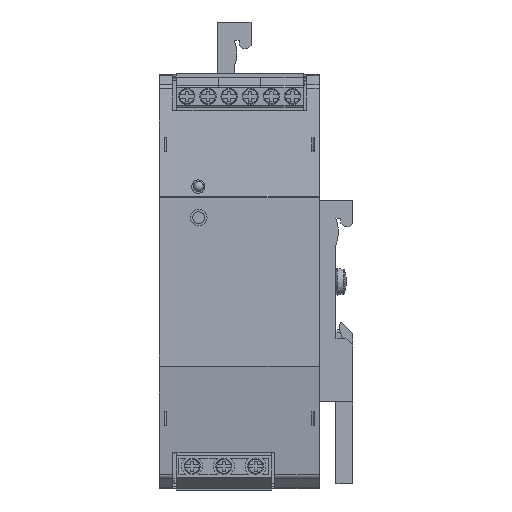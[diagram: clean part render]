
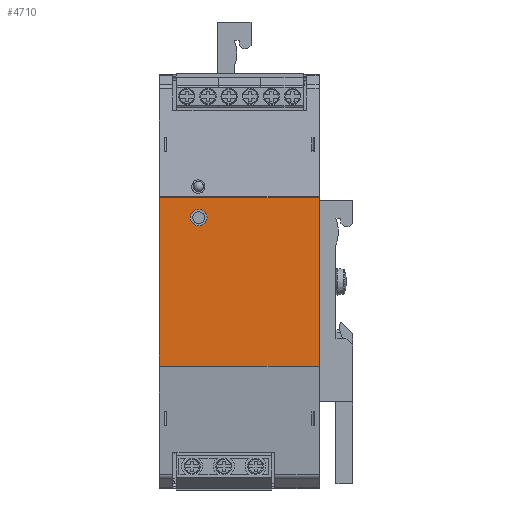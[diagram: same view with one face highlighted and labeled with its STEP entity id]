
A CAD part, front view. The second image highlights one B-rep face of the part: STEP entity #4710.
In plain terms, the highlighted planar face has unit normal (0, -1, 0).
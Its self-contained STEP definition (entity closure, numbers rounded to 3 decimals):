
#4710 = ADVANCED_FACE( '', ( #11376, #11377 ), #11378, .T. );
#11376 = FACE_OUTER_BOUND( '', #22682, .T. );
#11377 = FACE_BOUND( '', #22683, .T. );
#11378 = PLANE( '', #22684 );
#22682 = EDGE_LOOP( '', ( #41666, #41667, #41668, #41669 ) );
#22683 = EDGE_LOOP( '', ( #41670 ) );
#22684 = AXIS2_PLACEMENT_3D( '', #41671, #41672, #41673 );
#41666 = ORIENTED_EDGE( '', *, *, #62939, .F. );
#41667 = ORIENTED_EDGE( '', *, *, #62940, .F. );
#41668 = ORIENTED_EDGE( '', *, *, #62941, .T. );
#41669 = ORIENTED_EDGE( '', *, *, #62942, .T. );
#41670 = ORIENTED_EDGE( '', *, *, #62943, .F. );
#41671 = CARTESIAN_POINT( '', ( -22.5, -55.11, -25.39 ) );
#41672 = DIRECTION( '', ( 0., -1., 0. ) );
#41673 = DIRECTION( '', ( -1., 0., 0. ) );
#62939 = EDGE_CURVE( '', #77693, #77694, #77695, .T. );
#62940 = EDGE_CURVE( '', #77696, #77693, #77697, .T. );
#62941 = EDGE_CURVE( '', #77696, #77698, #77699, .T. );
#62942 = EDGE_CURVE( '', #77698, #77694, #77700, .T. );
#62943 = EDGE_CURVE( '', #77701, #77701, #77702, .T. );
#77693 = VERTEX_POINT( '', #98783 );
#77694 = VERTEX_POINT( '', #98784 );
#77695 = LINE( '', #98785, #98786 );
#77696 = VERTEX_POINT( '', #98787 );
#77697 = LINE( '', #98788, #98789 );
#77698 = VERTEX_POINT( '', #98790 );
#77699 = LINE( '', #98791, #98792 );
#77700 = LINE( '', #98793, #98794 );
#77701 = VERTEX_POINT( '', #98795 );
#77702 = CIRCLE( '', #98796, 2.5 );
#98783 = CARTESIAN_POINT( '', ( 25.5, -55.11, 25.322 ) );
#98784 = CARTESIAN_POINT( '', ( 25.5, -55.11, -25.322 ) );
#98785 = CARTESIAN_POINT( '', ( 25.5, -55.11, -25.39 ) );
#98786 = VECTOR( '', #112809, 1000. );
#98787 = CARTESIAN_POINT( '', ( -22.5, -55.11, 25.322 ) );
#98788 = CARTESIAN_POINT( '', ( -22.5, -55.11, 25.322 ) );
#98789 = VECTOR( '', #112810, 1000. );
#98790 = CARTESIAN_POINT( '', ( -22.5, -55.11, -25.322 ) );
#98791 = CARTESIAN_POINT( '', ( -22.5, -55.11, -25.39 ) );
#98792 = VECTOR( '', #112811, 1000. );
#98793 = CARTESIAN_POINT( '', ( -22.5, -55.11, -25.322 ) );
#98794 = VECTOR( '', #112812, 1000. );
#98795 = CARTESIAN_POINT( '', ( -8.205, -55.11, 19.266 ) );
#98796 = AXIS2_PLACEMENT_3D( '', #112813, #112814, #112815 );
#112809 = DIRECTION( '', ( 0., 0., -1. ) );
#112810 = DIRECTION( '', ( 1., 0., 0. ) );
#112811 = DIRECTION( '', ( 0., 0., -1. ) );
#112812 = DIRECTION( '', ( 1., 0., 0. ) );
#112813 = CARTESIAN_POINT( '', ( -10.705, -55.11, 19.266 ) );
#112814 = DIRECTION( '', ( 0., -1., 0. ) );
#112815 = DIRECTION( '', ( 1., 0., 0. ) );
